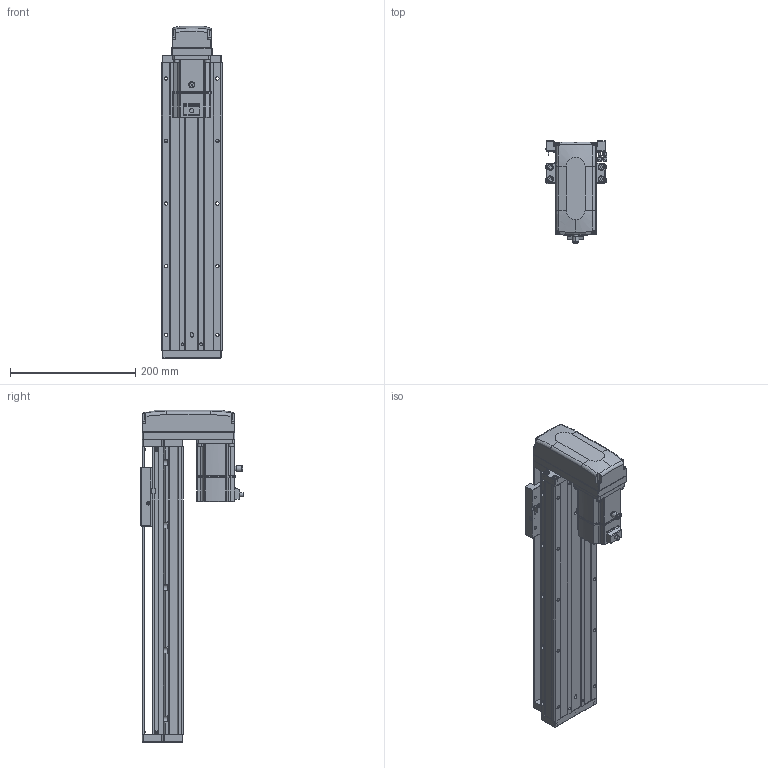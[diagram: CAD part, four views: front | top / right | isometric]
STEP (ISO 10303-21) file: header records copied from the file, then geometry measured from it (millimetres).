
FILE_DESCRIPTION (( 'STEP AP203' ), '1' );
FILE_NAME ('KTHA100-300-BM-M20-C4L.step', '2022-04-26T01:52:40', ( '微软用户' ), ( '微软中国' ), 'SwSTEP 2.0', 'SolidWorks 2020', '' );
FILE_SCHEMA (( 'CONFIG_CONTROL_DESIGN' ));
Length unit declared in the file: millimetre
Products named in the file (17): KTHA100-005; GBT70.1 M5℅16; GB¨uT 70.2-M3¡Á5_M3¡Á6; CTHA60-016; EE_SX911P_R; GBT 70.3-M3℅6; CTHA60-017; _X2_4E0983F1_X0_200W_1; KTHA100-001_460; CTHA60-021; CTHA86-015-1_CTHA86-015-2; KTHA100-002; GBT77-2000 M3×3; CTHA86-033; KTHA100-004; GBT 70.1-M3℅6; KTHA100-300-BM-M20-C4L
Assembly tree (57 placements, depth 2):
  KTHA100-300-BM-M20-C4L
    KTHA100-001_460
    KTHA100-002
    KTHA100-004
    KTHA100-005
    GB¨uT 70.2-M3¡Á5_M3¡Á6  x6
    EE_SX911P_R  x3
    CTHA60-017  x3
    CTHA60-021  x2
    GBT77-2000 M3×3  x6
    GBT 70.1-M3℅6  x10
    GBT70.1 M5℅16  x14
    CTHA60-016  x2
    GBT 70.3-M3℅6  x4
    _X2_4E0983F1_X0_200W_1
    CTHA86-015-1_CTHA86-015-2
    CTHA86-033
Bounding box: 98.82 x 163.2 x 531 mm (x, y, z)
Volume: 2625591.9 mm3; surface area: 435549.7 mm2
Topology: 60 solids, 60 shells, 2377 faces, 5665 edges, 3508 vertices
Faces by surface type: plane 1208, cylinder 659, cone 303, torus 116, bspline 75, sphere 16
Entity records: 40010 total; most frequent: CARTESIAN_POINT 8112, DIRECTION 6162, ORIENTED_EDGE 5942, EDGE_CURVE 2971, AXIS2_PLACEMENT_3D 2166, VERTEX_POINT 1868, LINE 1830, VECTOR 1830
